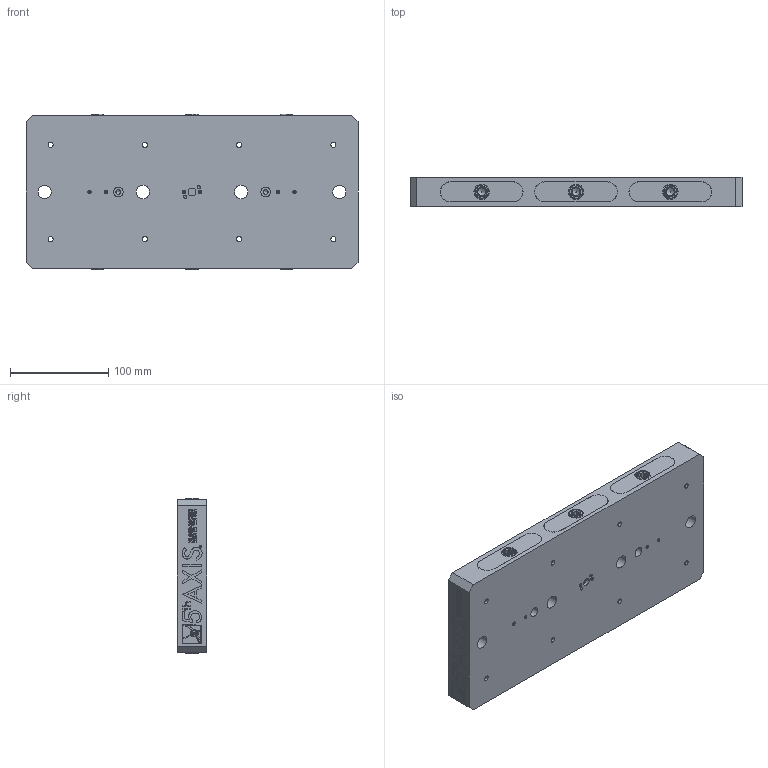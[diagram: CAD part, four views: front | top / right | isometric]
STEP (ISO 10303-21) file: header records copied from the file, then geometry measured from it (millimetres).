
FILE_DESCRIPTION (( 'STEP AP214' ), '1' );
FILE_NAME ('RL96A-3613S3_WEBSITE.STEP', '2025-08-11T11:20:29', ( '' ), ( '' ), 'SwSTEP 2.0', 'SolidWorks 2025', '' );
FILE_SCHEMA (( 'AUTOMOTIVE_DESIGN' ));
Length unit declared in the file: inch
Products named in the file (10): D_RL96-3_WEBSITE; 9452K121-Truck-O-Ring_WEBSITE; D_SB54_WEBSITE_FINISHED PART; D_HW27X20.DB_WEBSITE; D_RL96-1613S3A_WEBSITE; 9452K183-Base-O-Ring_WEBSITE; 9750K730_PLASTIC ROUND PLUG_WEBSITE_9750K73; D_RL96-2L_WEBSITE; D_RL96-2R_WEBSITE; RL96A-3613S3_WEBSITE
Assembly tree (38 placements, depth 2):
  9750K730_PLASTIC ROUND PLUG_WEBSITE_9750K73
  RL96A-3613S3_WEBSITE
    D_RL96-1613S3A_WEBSITE
    D_SB54_WEBSITE_FINISHED PART  x6
    D_HW27X20.DB_WEBSITE  x8
    D_RL96-3_WEBSITE  x3
    D_RL96-2R_WEBSITE  x3
    D_RL96-2L_WEBSITE  x3
    9452K183-Base-O-Ring_WEBSITE  x8
    9452K121-Truck-O-Ring_WEBSITE  x6
Bounding box: 338 x 30 x 158 mm (x, y, z)
Volume: 1371975.8 mm3; surface area: 311456.9 mm2
Topology: 44 solids, 44 shells, 1328 faces, 3229 edges, 2077 vertices
Faces by surface type: plane 730, bspline 285, cylinder 239, cone 46, torus 28
Full cylindrical faces by diameter (mm): 0.127 x6, 1.834 x1, 2.101 x1, 2.5 x6, 3.3 x8, 4 x6, 4.7 x6, 5 x8, 5.182 x14, 8.026 x1, 8.204 x6, 9 x6, 9.525 x6, 10.025 x2, 10.795 x3, 11.938 x8, 12.573 x8, 13.492 x4, 14 x6, 15.748 x6, 19.05 x6, 19.101 x8, 19.99 x3, 20.015 x8, 20.035 x8, 20.32 x4, 26.982 x8, 26.993 x8, 27.051 x8
Entity records: 46158 total; most frequent: CARTESIAN_POINT 19162, ORIENTED_EDGE 4280, DIRECTION 3176, EDGE_CURVE 2140, VERTEX_POINT 1480, EDGE_LOOP 1216, LINE 1180, VECTOR 1180
